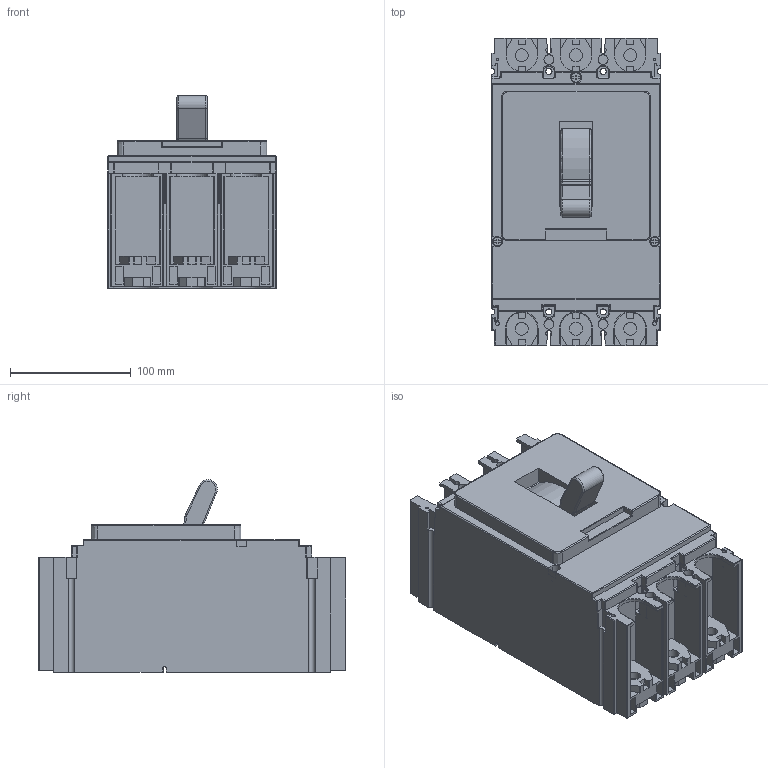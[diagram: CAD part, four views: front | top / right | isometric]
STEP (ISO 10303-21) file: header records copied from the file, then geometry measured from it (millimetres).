
FILE_DESCRIPTION((''),'2;1');
FILE_NAME('C63H34V570_3D-SIMPLIFIED_ASM_1_ASM','2020-12-16T09:21:19',('user.1'),('Schneider-Electric'),'CREO PARAMETRIC BY PTC INC, 2018300','CREO PARAMETRIC BY PTC INC, 2018300','');
FILE_SCHEMA(('CONFIG_CONTROL_DESIGN'));
Length unit declared in the file: millimetre
Products named in the file (2): C63H34V570_3D-SIMPLIFIED; C63H34V570_3D-SIMPLIFIED_ASM_1_ASM
Assembly tree (1 placements, depth 2):
  C63H34V570_3D-SIMPLIFIED_ASM_1_ASM
    C63H34V570_3D-SIMPLIFIED
Bounding box: 139.7 x 255 x 159.71 mm (x, y, z)
Volume: 3373004.3 mm3; surface area: 259573.8 mm2
Topology: 1 solids, 1 shells, 1080 faces, 2937 edges, 1896 vertices
Faces by surface type: plane 681, cylinder 319, bspline 30, torus 27, sphere 13, extrusion 10
Entity records: 37274 total; most frequent: CARTESIAN_POINT 9776, ORIENTED_EDGE 5874, DIRECTION 5515, EDGE_CURVE 2937, VECTOR 2193, LINE 2183, VERTEX_POINT 1896, AXIS2_PLACEMENT_3D 1661
